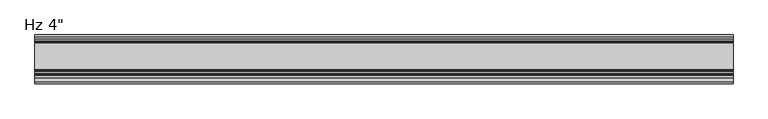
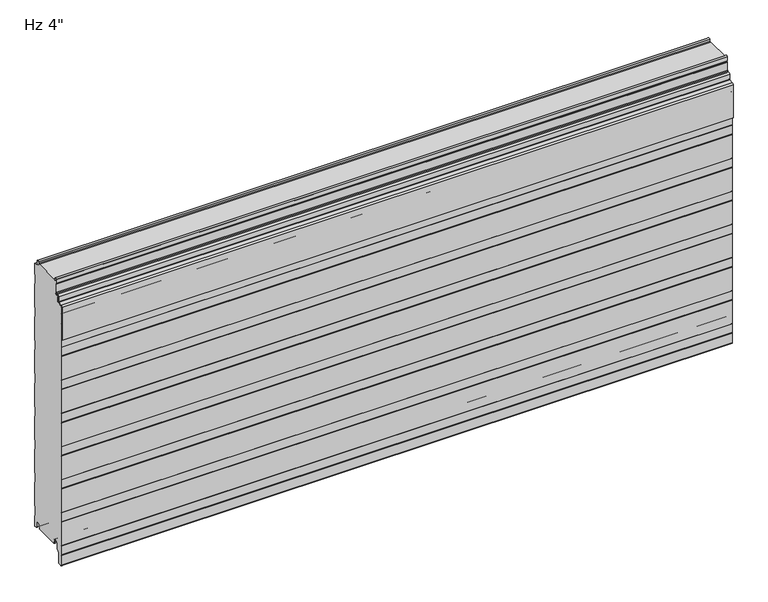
"""IFC4 building model written with IfcOpenShell, lengths in millimetres: plate geometry."""

from ifc_helpers import new_model, si_unit, point, frame, frame_2d, origin, place, context, project, spatial, polyline, circle_curve, trimmed, segment, composite_curve, outline, extrude, source, transform, mapped, element, save
from ifc_brep_helpers import plane_surface, cylinder_surface, revolved_surface, advanced_brep


def plate_a46f110f(model_context):
    return source(origin(), model_context, "Body", "SolidModel", [
        advanced_brep(
        [(730.0, -80.5008679, 583.4464086), (730.0, -80.5008679, 602.1916086), (730.0, -82.0248679, 602.1916086), (730.0, -82.0248679, 583.4464086), (730.0, -83.5488679, 581.9224086), (730.0, -86.6476679, 581.9224086), (730.0, -90.1020679, 578.4680086), (730.0, -90.1020679, 567.2554512), (730.0, -90.7976552, 566.4963509), (730.0, -100.3416507, 565.3015233), (730.0, -103.124, 562.2651218), (730.0, -103.1360323, 486.6978086), (730.0, -101.6, 486.6978086), (730.0, -101.6, 562.2651218), (730.0, -100.2088254, 563.7833225), (730.0, -90.6648299, 564.9781501), (730.0, -88.5780679, 567.2554512), (730.0, -88.5780679, 578.4680086), (730.0, -86.6476679, 580.3984086), (730.0, -83.5488679, 580.3984086), (-730.0, -80.5008679, 583.4464086), (-730.0, -83.5488679, 580.3984086), (-730.0, -86.6476679, 580.3984086), (-730.0, -88.5780679, 578.4680086), (-730.0, -88.5780679, 567.2554512), (-730.0, -90.6648299, 564.9781501), (-730.0, -100.2088254, 563.7833225), (-730.0, -101.6, 562.2651218), (-730.0, -101.6, 486.6978086), (-730.0, -103.1360323, 486.6978086), (-730.0, -103.1360323, 562.2651218), (-730.0, -100.3416507, 565.3015233), (-730.0, -90.7976552, 566.4963509), (-730.0, -90.1020679, 567.2554512), (-730.0, -90.1020679, 578.4680086), (-730.0, -86.6476679, 581.9224086), (-730.0, -83.5488679, 581.9224086), (-730.0, -82.0248679, 583.4464086), (-730.0, -82.0248679, 602.1916086), (-730.0, -80.5008679, 602.1916086)],
        [
            (0, 1),
            (1, 2),
            (2, 3),
            (3, 4, circle_curve(frame((730.0, -83.5488679, 583.4464086), z_axis=(-1.0, 0.0, 0.0), x_axis=(0.0, 1.0, 0.0)), 1.524)),
            (4, 5),
            (5, 6, circle_curve(frame((730.0, -86.6476679, 578.4680086), z_axis=(1.0, 0.0, 0.0), x_axis=(0.0, 1.0, 0.0)), 3.4544)),
            (6, 7),
            (7, 8, circle_curve(frame((730.0, -90.8640679, 567.2554512), z_axis=(-1.0, 0.0, 0.0), x_axis=(0.0, 1.0, 0.0)), 0.762)),
            (8, 9),
            (9, 10, circle_curve(frame((730.0, -100.076, 562.2651218), z_axis=(1.0, 0.0, 0.0), x_axis=(0.0, 1.0, 0.0)), 3.048)),
            (10, 11),
            (11, 12),
            (12, 13),
            (13, 14, circle_curve(frame((730.0, -100.076, 562.2651218), z_axis=(-1.0, 0.0, 0.0), x_axis=(0.0, 1.0, 0.0)), 1.524)),
            (14, 15),
            (15, 16, circle_curve(frame((730.0, -90.8640679, 567.2554512), z_axis=(1.0, 0.0, 0.0), x_axis=(0.0, 1.0, 0.0)), 2.286)),
            (16, 17),
            (17, 18, circle_curve(frame((730.0, -86.6476679, 578.4680086), z_axis=(-1.0, 0.0, 0.0), x_axis=(0.0, 1.0, 0.0)), 1.9304)),
            (18, 19),
            (19, 0, circle_curve(frame((730.0, -83.5488679, 583.4464086), z_axis=(1.0, 0.0, 0.0), x_axis=(0.0, 1.0, 0.0)), 3.048)),
            (20, 21, circle_curve(frame((-730.0, -83.5488679, 583.4464086), z_axis=(-1.0, 0.0, 0.0), x_axis=(0.0, 1.0, 0.0)), 3.048)),
            (21, 22),
            (22, 23, circle_curve(frame((-730.0, -86.6476679, 578.4680086), z_axis=(1.0, 0.0, 0.0), x_axis=(0.0, 1.0, 0.0)), 1.9304)),
            (23, 24),
            (24, 25, circle_curve(frame((-730.0, -90.8640679, 567.2554512), z_axis=(-1.0, 0.0, 0.0), x_axis=(0.0, 1.0, 0.0)), 2.286)),
            (25, 26),
            (26, 27, circle_curve(frame((-730.0, -100.076, 562.2651218), z_axis=(1.0, 0.0, 0.0), x_axis=(0.0, 1.0, 0.0)), 1.524)),
            (27, 28),
            (28, 29),
            (29, 30),
            (30, 31, circle_curve(frame((-730.0, -100.076, 562.2651218), z_axis=(-1.0, 0.0, 0.0), x_axis=(0.0, 1.0, 0.0)), 3.048)),
            (31, 32),
            (32, 33, circle_curve(frame((-730.0, -90.8640679, 567.2554512), z_axis=(1.0, 0.0, 0.0), x_axis=(0.0, 1.0, 0.0)), 0.762)),
            (33, 34),
            (34, 35, circle_curve(frame((-730.0, -86.6476679, 578.4680086), z_axis=(-1.0, 0.0, 0.0), x_axis=(0.0, 1.0, 0.0)), 3.4544)),
            (35, 36),
            (36, 37, circle_curve(frame((-730.0, -83.5488679, 583.4464086), z_axis=(1.0, 0.0, 0.0), x_axis=(0.0, 1.0, 0.0)), 1.524)),
            (37, 38),
            (38, 39),
            (39, 20),
            (2, 38),
            (37, 3),
            (15, 25),
            (24, 16),
            (7, 33),
            (32, 8),
            (5, 35),
            (34, 6),
            (1, 39),
            (36, 4),
            (9, 31),
            (30, 10),
            (13, 27),
            (26, 14),
            (0, 20),
            (12, 28),
            (29, 11),
            (23, 17),
            (18, 22),
            (21, 19),
        ],
        [
            plane_surface(frame((730.0, -101.6, 602.1916086), z_axis=(1.0, 0.0, 0.0), x_axis=(0.0, 0.0, -1.0))),
            plane_surface(frame((-730.0, -101.6, 602.1916086), z_axis=(-1.0, 0.0, 0.0), x_axis=(0.0, 0.0, -1.0))),
            plane_surface(frame((730.0, -82.0248679, 583.4464086), z_axis=(0.0, -1.0, 0.0), x_axis=(-1.0, 0.0, 0.0))),
            cylinder_surface(frame((730.0, -90.8640679, 567.2554512), z_axis=(1.0, 0.0, 0.0), x_axis=(0.0, 1.0, 0.0)), 2.286),
            revolved_surface(polyline([(-730.0, -90.1020679, 567.2554512), (730.0, -90.1020679, 567.2554512)]), (730.0, -90.8640679, 567.2554512), (-1.0, 0.0, 0.0)),
            cylinder_surface(frame((730.0, -86.6476679, 578.4680086), z_axis=(1.0, 0.0, 0.0), x_axis=(0.0, 1.0, 0.0)), 3.4544),
            plane_surface(frame((730.0, -82.0248679, 602.1916086), z_axis=(0.0, 0.0, 1.0), x_axis=(-1.0, 0.0, 0.0))),
            revolved_surface(polyline([(-730.0, -82.0248679, 583.4464086), (730.0, -82.0248679, 583.4464086)]), (730.0, -83.5488679, 583.4464086), (-1.0, 0.0, 0.0)),
            cylinder_surface(frame((730.0, -100.076, 562.2651218), z_axis=(1.0, 0.0, 0.0), x_axis=(0.0, 1.0, 0.0)), 3.048),
            revolved_surface(polyline([(-730.0, -98.55199999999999, 562.2651218), (730.0, -98.55199999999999, 562.2651218)]), (730.0, -100.076, 562.2651218), (-1.0, 0.0, 0.0)),
            plane_surface(frame((730.0, -80.5008679, 602.1916086), z_axis=(0.0, 1.0, 0.0), x_axis=(-1.0, 0.0, 0.0))),
            plane_surface(frame((730.0, -90.6648299, 564.9781501), z_axis=(0.0, 0.12422187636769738, -0.9922544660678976), x_axis=(-1.0, 0.0, 0.0))),
            plane_surface(frame((730.0, -101.6, 562.2651218), z_axis=(0.0, 1.0, 0.0), x_axis=(-1.0, 0.0, 0.0))),
            plane_surface(frame((730.0, -100.3416507, 565.3015233), z_axis=(0.0, -0.12422187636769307, 0.9922544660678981), x_axis=(-1.0, 0.0, 0.0))),
            plane_surface(frame((730.0, -86.6476679, 581.9224086), z_axis=(0.0, 0.0, 1.0), x_axis=(-1.0, 0.0, 0.0))),
            plane_surface(frame((730.0, -103.1360323, 486.6978086), z_axis=(0.0, -1.0, 0.0), x_axis=(-1.0, 0.0, 0.0))),
            plane_surface(frame((730.0, -101.6, 486.6978086), z_axis=(0.0, 0.0, -1.0), x_axis=(-1.0, 0.0, 0.0))),
            plane_surface(frame((730.0, -88.5780679, 578.4680086), z_axis=(0.0, 1.0, 0.0), x_axis=(-1.0, 0.0, 0.0))),
            plane_surface(frame((730.0, -83.5488679, 580.3984086), z_axis=(0.0, 0.0, -1.0), x_axis=(-1.0, 0.0, 0.0))),
            plane_surface(frame((730.0, -90.1020679, 567.2554512), z_axis=(0.0, -1.0, 0.0), x_axis=(-1.0, 0.0, 0.0))),
            revolved_surface(polyline([(-730.0, -84.7172679, 578.4680086), (730.0, -84.7172679, 578.4680086)]), (730.0, -86.6476679, 578.4680086), (-1.0, 0.0, 0.0)),
            cylinder_surface(frame((730.0, -83.5488679, 583.4464086), z_axis=(1.0, 0.0, 0.0), x_axis=(0.0, 1.0, 0.0)), 3.048),
        ],
        [
            (0, [[1, 2, 3, 4, 5, 6, 7, 8, 9, 10, 11, 12, 13, 14, 15, 16, 17, 18, 19, 20]]),
            (1, [[21, 22, 23, 24, 25, 26, 27, 28, 29, 30, 31, 32, 33, 34, 35, 36, 37, 38, 39, 40]]),
            (2, [[41, -38, 42, -3]]),
            (3, [[43, -25, 44, -16]]),
            (4, [[45, -33, 46, -8]]),
            (5, [[47, -35, 48, -6]]),
            (6, [[49, -39, -41, -2]]),
            (7, [[-42, -37, 50, -4]]),
            (8, [[51, -31, 52, -10]]),
            (9, [[53, -27, 54, -14]]),
            (10, [[55, -40, -49, -1]]),
            (11, [[-54, -26, -43, -15]]),
            (12, [[56, -28, -53, -13]]),
            (13, [[-46, -32, -51, -9]]),
            (14, [[-50, -36, -47, -5]]),
            (15, [[-52, -30, 57, -11]]),
            (16, [[-57, -29, -56, -12]]),
            (17, [[-44, -24, 58, -17]]),
            (18, [[59, -22, 60, -19]]),
            (19, [[-48, -34, -45, -7]]),
            (20, [[-58, -23, -59, -18]]),
            (21, [[-60, -21, -55, -20]]),
        ],
    ),
        extrude(outline(composite_curve([segment(trimmed(circle_curve(frame_2d((-73.306538, 2.2313092)), 1.1999976), [point((-73.2760161, 1.0316999))], [point((-72.1065413, 2.2328239))], True, "CARTESIAN"), True, "CONTINUOUS"), segment(polyline([(-72.1065413, 2.2328239), (-72.1065413, 5.9912173), (-73.5050202, 5.9912173), (-73.5050202, 8.6903283)]), True, "CONTINUOUS"), segment(trimmed(circle_curve(frame_2d((-76.8550155, 8.6903283)), 3.3499953), [point((-73.5050202, 8.6903283))], [point((-76.8550155, 12.0403236))], True, "CARTESIAN"), True, "CONTINUOUS"), segment(polyline([(-76.8550155, 12.0403236), (-81.2550067, 12.0403236)]), True, "CONTINUOUS"), segment(trimmed(circle_curve(frame_2d((-81.2550067, 8.6903283)), 3.3499953), [point((-81.2550067, 12.0403236))], [point((-84.605002, 8.6903283))], True, "CARTESIAN"), True, "CONTINUOUS"), segment(polyline([(-84.605002, 8.6903283), (-84.605002, -3.1205608)]), True, "CONTINUOUS"), segment(trimmed(circle_curve(frame_2d((-86.3049966, -3.1205608)), 1.6999946), [point((-84.605002, -3.1205608))], [point((-85.1029189, -4.3226385))], False, "CARTESIAN"), True, "CONTINUOUS"), segment(polyline([(-85.1029189, -4.3226385), (-90.60499, -9.8247096), (-90.60499, -31.9198392)]), True, "CONTINUOUS"), segment(trimmed(circle_curve(frame_2d((-93.3049826, -31.9198392)), 2.6999926), [point((-90.60499, -31.9198392))], [point((-92.823592, -34.5765709))], False, "CARTESIAN"), True, "CONTINUOUS"), segment(polyline([(-92.823592, -34.5765709), (-97.8054129, -35.0125699)]), True, "CONTINUOUS"), segment(trimmed(circle_curve(frame_2d((-98.0294985, -32.4521176)), 2.5702393), [point((-97.8054129, -35.0125699))], [point((-100.5997378, -32.4521176))], False, "CARTESIAN"), True, "CONTINUOUS"), segment(polyline([(-100.5997378, -32.4521176), (-100.5997378, -10.4790962), (-99.3997693, -9.2791277), (-99.3997693, 10.4402849), (-100.6, 11.6405156), (-100.6, 65.7206473), (-99.3997693, 66.920878), (-99.3997693, 86.6402905), (-100.6, 87.8405213), (-100.6, 141.920653), (-99.3997693, 143.1208837), (-99.3997693, 162.8402962), (-100.6, 164.0405269), (-100.6, 218.1206587), (-99.3997693, 219.3208894), (-99.3997693, 239.0403019), (-100.6, 240.2405326), (-100.6, 294.3206644), (-99.3997693, 295.5208951), (-99.3997693, 315.2403076), (-100.6, 316.4405383), (-100.6, 370.5206701), (-99.3997693, 371.7209008), (-99.3997693, 391.4403133), (-100.6, 392.640544), (-100.6, 446.7206758), (-99.3997693, 447.9209065), (-99.3997693, 467.640319), (-100.6, 468.8405497), (-100.6, 522.9206815), (-99.3997693, 524.1209122), (-99.3997693, 543.8403247), (-100.6051411, 545.0456965), (-100.6051411, 561.1156233)]), True, "CONTINUOUS"), segment(trimmed(circle_curve(frame_2d((-98.6461194, 561.1156233)), 1.9590216), [point((-100.6051411, 561.1156233))], [point((-98.8178029, 563.0671075))], False, "CARTESIAN"), True, "CONTINUOUS"), segment(polyline([(-98.8178029, 563.0671075), (-90.3590902, 563.821161)]), True, "CONTINUOUS"), segment(trimmed(circle_curve(frame_2d((-90.6231732, 566.8396267)), 3.0299959), [point((-90.3590902, 563.821161))], [point((-87.5957873, 566.9653654))], True, "CARTESIAN"), True, "CONTINUOUS"), segment(polyline([(-87.5957873, 566.9653654), (-87.5957873, 577.0583308)]), True, "CONTINUOUS"), segment(trimmed(circle_curve(frame_2d((-86.6443786, 577.0583308)), 0.9514087), [point((-87.5957873, 577.0583308))], [point((-86.6443786, 578.0097394))], False, "CARTESIAN"), True, "CONTINUOUS"), segment(polyline([(-86.6443786, 578.0097394), (-83.5007233, 578.0097394)]), True, "CONTINUOUS"), segment(trimmed(circle_curve(frame_2d((-83.5007233, 582.0091924)), 3.9994529), [point((-83.5007233, 578.0097394))], [point((-79.5012703, 582.0091924))], True, "CARTESIAN"), True, "CONTINUOUS"), segment(polyline([(-79.5012703, 582.0091924), (-79.5012703, 603.1895515), (-81.4821181, 604.3334028), (-81.1268578, 613.306811)]), True, "CONTINUOUS"), segment(trimmed(circle_curve(frame_2d((-79.0266291, 613.2236622)), 2.1018739), [point((-81.1268578, 613.306811))], [point((-76.9262802, 613.3037148))], False, "CARTESIAN"), True, "CONTINUOUS"), segment(polyline([(-76.9262802, 613.3037148), (-76.6818653, 609.2977997)]), True, "CONTINUOUS"), segment(trimmed(circle_curve(frame_2d((-74.8434917, 609.4099653)), 1.8417922), [point((-76.6818653, 609.2977997))], [point((-74.8870527, 607.5686884))], True, "CARTESIAN"), True, "CONTINUOUS"), segment(polyline([(-74.8870527, 607.5686884), (-72.1025061, 607.5686884), (-72.1025061, 608.5686884), (-73.6900061, 608.5686884), (-72.6586945, 609.6), (-18.6184525, 609.6), (-17.5871409, 608.5686884), (-19.0015288, 608.5686884), (-19.0015288, 607.5686884), (-16.6743462, 607.5686884)]), True, "CONTINUOUS"), segment(trimmed(circle_curve(frame_2d((-16.6743462, 609.3186869)), 1.7499985), [point((-16.6743462, 607.5686884))], [point((-14.9256429, 609.2513685))], True, "CARTESIAN"), True, "CONTINUOUS"), segment(polyline([(-14.9256429, 609.2513685), (-14.7059822, 613.3921924)]), True, "CONTINUOUS"), segment(trimmed(circle_curve(frame_2d((-12.5552871, 613.2781032)), 2.153719), [point((-14.7059822, 613.3921924))], [point((-10.4046442, 613.3931719))], False, "CARTESIAN"), True, "CONTINUOUS"), segment(polyline([(-10.4046442, 613.3931719), (-9.9974365, 604.9016499)]), True, "CONTINUOUS"), segment(trimmed(circle_curve(frame_2d((-5.9867338, 605.0939817)), 4.0153117), [point((-9.9974365, 604.9016499))], [point((-6.0026007, 601.0787013))], True, "CARTESIAN"), True, "CONTINUOUS"), segment(polyline([(-6.0026007, 601.0787013), (-1.0, 601.0787013), (-1.0, 576.5794011), (-2.2002307, 575.1937682), (-2.2002307, 555.8186019), (-1.0, 554.4329689), (-1.0, 500.3795535), (-2.2002307, 498.9939206), (-2.2002307, 479.6187543), (-1.0, 478.2331213), (-1.0, 424.1797059), (-2.2002307, 422.794073), (-2.2002307, 403.4189067), (-1.0, 402.0332737), (-1.0, 347.9798583), (-2.2002307, 346.5942254), (-2.2002307, 327.2190591), (-1.0, 325.8334261), (-1.0, 271.7800107), (-2.2002307, 270.3943778), (-2.2002307, 251.0192115), (-1.0, 249.6335785), (-1.0, 195.5801631), (-2.2002307, 194.1945302), (-2.2002307, 174.8193639), (-1.0, 173.4337309), (-1.0, 119.3803155), (-2.2002307, 117.9946826), (-2.2002307, 98.6195163), (-1.0, 97.2338833), (-1.0, 43.1804679), (-2.2002307, 41.794835), (-2.2002307, 22.4196687), (-0.9999916, 21.034026), (-0.9999916, -3.4662506), (-5.2315389, -3.4662506)]), True, "CONTINUOUS"), segment(trimmed(circle_curve(frame_2d((-5.2315389, -1.6962564)), 1.7699942), [point((-5.2315389, -3.4662506))], [point((-7.0015331, -1.6962564))], False, "CARTESIAN"), True, "CONTINUOUS"), segment(polyline([(-7.0015331, -1.6962564), (-7.0015331, 8.7237222)]), True, "CONTINUOUS"), segment(trimmed(circle_curve(frame_2d((-10.301529, 8.7237222)), 3.2999959), [point((-7.0015331, 8.7237222))], [point((-10.301529, 12.023718))], True, "CARTESIAN"), True, "CONTINUOUS"), segment(polyline([(-10.301529, 12.023718), (-14.7015202, 12.023718)]), True, "CONTINUOUS"), segment(trimmed(circle_curve(frame_2d((-14.7015202, 8.7237223)), 3.2999957), [point((-14.7015202, 12.023718))], [point((-18.0015159, 8.7237223))], True, "CARTESIAN"), True, "CONTINUOUS"), segment(polyline([(-18.0015159, 8.7237223), (-18.0015159, 6.0315125), (-19.0015105, 6.0315125), (-19.0015105, 2.0313089)]), True, "CONTINUOUS"), segment(trimmed(circle_curve(frame_2d((-18.0015133, 2.0313089)), 0.9999972), [point((-19.0015105, 2.0313089))], [point((-18.0015192, 1.0313117))], True, "CARTESIAN"), True, "CONTINUOUS"), segment(polyline([(-18.0015192, 1.0313117), (-19.0328308, 0.0), (-72.2443162, 0.0), (-73.2760161, 1.0316999)]), True, "CONTINUOUS")], self_intersect=False)), frame((-730.0, 0.0, 0.0), z_axis=(1.0, 0.0, 0.0), x_axis=(0.0, 1.0, 0.0)), (0.0, 0.0, 1.0), 1460.0),
    ])


if __name__ == "__main__":
    model = new_model("IFC4")
    model_context = context("Model", 3, world=origin())
    ifc_project = project(units=[si_unit("LENGTHUNIT", "METRE", prefix="MILLI")], contexts=[model_context])
    site = spatial("IfcSite", under=ifc_project)
    building = spatial("IfcBuilding", under=site)
    placement = place(None, origin())
    plate_shape = plate_a46f110f(model_context)
    element("IfcPlate", 1, ObjectType="KIP-24-Karrier-KP-R19-CP-Hz-SL3-8in_SL : Hz 4\"", at=placement, inside=building, context=model_context, shape_type="MappedRepresentation", body=[
        mapped(plate_shape, transform((0.0, 0.0, 0.0), x_axis=(1.0, 0.0, 0.0), y_axis=(0.0, 1.0, 0.0), z_axis=(0.0, 0.0, 1.0))),
    ])
    save(model, "model.ifc")
